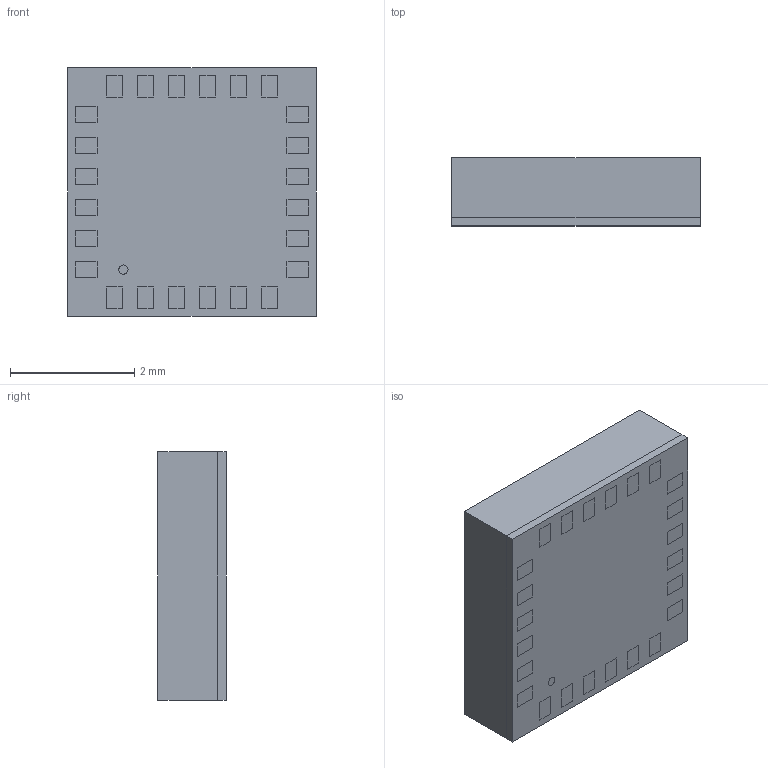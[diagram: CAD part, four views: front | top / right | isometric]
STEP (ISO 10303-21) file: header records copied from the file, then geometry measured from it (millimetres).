
FILE_DESCRIPTION (( 'STEP AP214' ), '1' );
FILE_NAME ('MPU-9150.STEP', '2023-07-05T14:41:38', ( '' ), ( '' ), 'SwSTEP 2.0', 'SolidWorks 2021', '' );
FILE_SCHEMA (( 'AUTOMOTIVE_DESIGN' ));
Length unit declared in the file: millimetre
Products named in the file (1): MPU-9150
Bounding box: 4 x 1.1 x 4 mm (x, y, z)
Volume: 17.6 mm3; surface area: 90 mm2
Topology: 28 solids, 28 shells, 290 faces, 624 edges, 416 vertices
Faces by surface type: plane 282, cylinder 8
Entity records: 7981 total; most frequent: CARTESIAN_POINT 1331, ORIENTED_EDGE 1248, DIRECTION 1222, EDGE_CURVE 624, LINE 608, VECTOR 608, VERTEX_POINT 416, EDGE_LOOP 316
